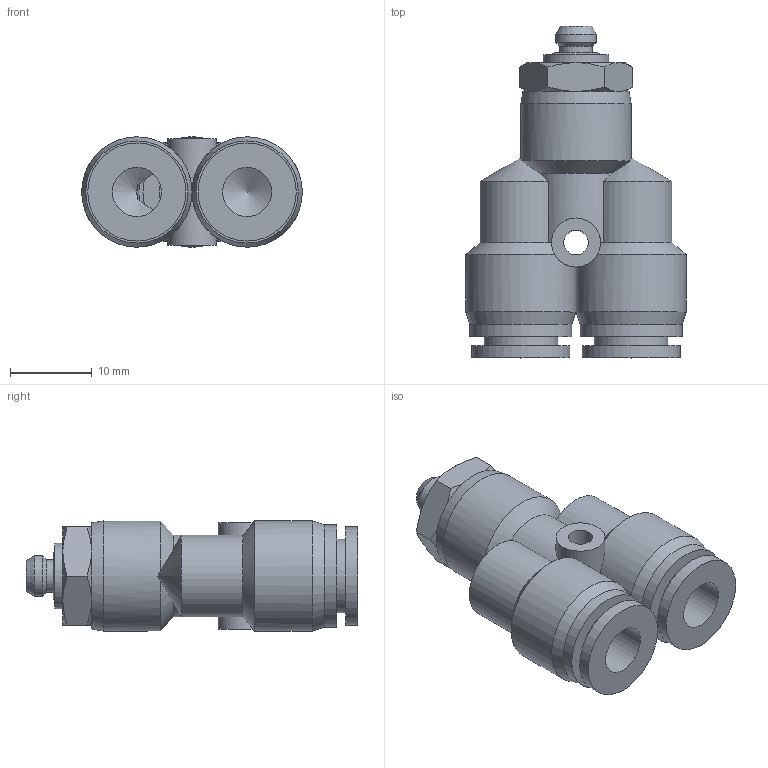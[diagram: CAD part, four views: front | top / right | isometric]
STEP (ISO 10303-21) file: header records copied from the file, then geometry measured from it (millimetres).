
FILE_DESCRIPTION(/* description */ (''),/* implementation_level */ '2;1');
FILE_NAME(/* name */ 'S:\_Tecnico\ArchivioUT\_Disegni3D ingombri\DISEGNI 3D per ingombri\RP\RP 74\RP74M506.stp',/* time_stamp */ '2020-02-05T15:16:29+01:00',/* author */ ('UfficioTecnico'),/* organization */ (''),/* preprocessor_version */ 'ST-DEVELOPER v18',/* originating_system */ 'Autodesk Inventor 2020',/* authorisation */ '');
FILE_SCHEMA (('AUTOMOTIVE_DESIGN { 1 0 10303 214 3 1 1 }'));
Length unit declared in the file: millimetre
Products named in the file (1): RP74M506
Bounding box: 27 x 40.61 x 13.5 mm (x, y, z)
Volume: 5973.9 mm3; surface area: 4223.4 mm2
Topology: 2 solids, 2 shells, 76 faces, 194 edges, 127 vertices
Faces by surface type: cone 26, cylinder 24, plane 24, torus 2
Full cylindrical faces by diameter (mm): 2.5 x1, 3 x1, 4 x2, 4.976 x1, 6 x4, 8 x1, 9 x2, 12 x2, 12.5 x2, 13.5 x3
Entity records: 2495 total; most frequent: CARTESIAN_POINT 636, DIRECTION 397, ORIENTED_EDGE 380, EDGE_CURVE 190, AXIS2_PLACEMENT_3D 178, VERTEX_POINT 127, CIRCLE 101, EDGE_LOOP 90
